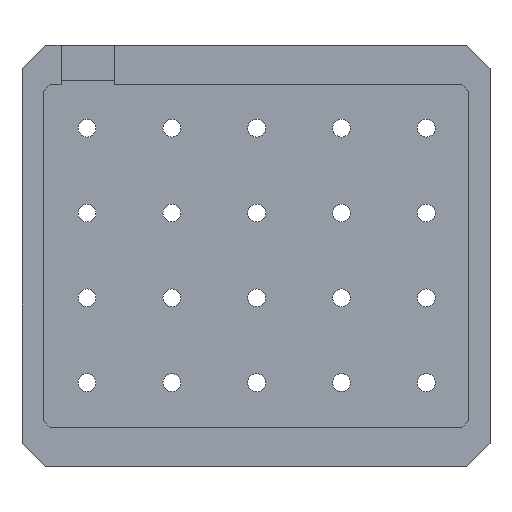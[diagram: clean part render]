
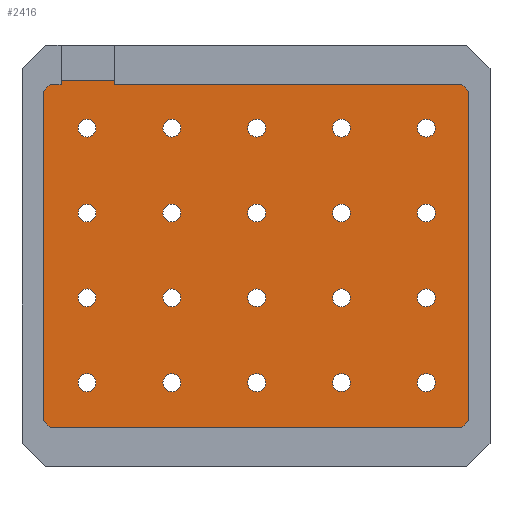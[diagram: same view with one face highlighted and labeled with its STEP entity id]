
A CAD part, top view. The second image highlights one B-rep face of the part: STEP entity #2416.
In plain terms, the highlighted planar face has unit normal (0, 0, 1).
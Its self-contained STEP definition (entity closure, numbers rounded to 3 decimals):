
#45=FACE_BOUND('',#371,.T.);
#46=FACE_BOUND('',#372,.T.);
#47=FACE_BOUND('',#373,.T.);
#48=FACE_BOUND('',#374,.T.);
#49=FACE_BOUND('',#375,.T.);
#50=FACE_BOUND('',#376,.T.);
#51=FACE_BOUND('',#377,.T.);
#52=FACE_BOUND('',#378,.T.);
#53=FACE_BOUND('',#379,.T.);
#54=FACE_BOUND('',#380,.T.);
#55=FACE_BOUND('',#381,.T.);
#56=FACE_BOUND('',#382,.T.);
#57=FACE_BOUND('',#383,.T.);
#58=FACE_BOUND('',#384,.T.);
#59=FACE_BOUND('',#385,.T.);
#60=FACE_BOUND('',#386,.T.);
#61=FACE_BOUND('',#387,.T.);
#62=FACE_BOUND('',#388,.T.);
#63=FACE_BOUND('',#389,.T.);
#64=FACE_BOUND('',#390,.T.);
#92=PLANE('',#2607);
#216=FACE_OUTER_BOUND('',#370,.T.);
#370=EDGE_LOOP('',(#1825,#1826,#1827,#1828,#1829,#1830,#1831,#1832));
#371=EDGE_LOOP('',(#1833));
#372=EDGE_LOOP('',(#1834));
#373=EDGE_LOOP('',(#1835));
#374=EDGE_LOOP('',(#1836));
#375=EDGE_LOOP('',(#1837));
#376=EDGE_LOOP('',(#1838));
#377=EDGE_LOOP('',(#1839));
#378=EDGE_LOOP('',(#1840));
#379=EDGE_LOOP('',(#1841));
#380=EDGE_LOOP('',(#1842));
#381=EDGE_LOOP('',(#1843));
#382=EDGE_LOOP('',(#1844));
#383=EDGE_LOOP('',(#1845));
#384=EDGE_LOOP('',(#1846));
#385=EDGE_LOOP('',(#1847));
#386=EDGE_LOOP('',(#1848));
#387=EDGE_LOOP('',(#1849));
#388=EDGE_LOOP('',(#1850));
#389=EDGE_LOOP('',(#1851));
#390=EDGE_LOOP('',(#1852));
#533=LINE('',#3528,#809);
#539=LINE('',#3539,#815);
#546=LINE('',#3554,#822);
#549=LINE('',#3559,#825);
#550=LINE('',#3563,#826);
#553=LINE('',#3567,#829);
#554=LINE('',#3570,#830);
#556=LINE('',#3573,#832);
#809=VECTOR('',#2879,10.);
#815=VECTOR('',#2887,10.);
#822=VECTOR('',#2898,10.);
#825=VECTOR('',#2903,10.);
#826=VECTOR('',#2906,10.);
#829=VECTOR('',#2911,10.);
#830=VECTOR('',#2914,10.);
#832=VECTOR('',#2918,10.);
#1065=CIRCLE('',#2539,2.);
#1067=CIRCLE('',#2542,2.);
#1069=CIRCLE('',#2545,2.);
#1071=CIRCLE('',#2548,2.);
#1073=CIRCLE('',#2551,2.);
#1075=CIRCLE('',#2554,2.);
#1077=CIRCLE('',#2557,2.);
#1079=CIRCLE('',#2560,2.);
#1081=CIRCLE('',#2563,2.);
#1083=CIRCLE('',#2566,2.);
#1085=CIRCLE('',#2569,2.);
#1087=CIRCLE('',#2572,2.);
#1089=CIRCLE('',#2575,2.);
#1091=CIRCLE('',#2578,2.);
#1093=CIRCLE('',#2581,2.);
#1095=CIRCLE('',#2584,2.);
#1097=CIRCLE('',#2587,2.);
#1099=CIRCLE('',#2590,2.);
#1101=CIRCLE('',#2593,2.);
#1103=CIRCLE('',#2596,2.);
#1125=VERTEX_POINT('',#3406);
#1127=VERTEX_POINT('',#3412);
#1129=VERTEX_POINT('',#3418);
#1131=VERTEX_POINT('',#3424);
#1133=VERTEX_POINT('',#3430);
#1135=VERTEX_POINT('',#3436);
#1137=VERTEX_POINT('',#3442);
#1139=VERTEX_POINT('',#3448);
#1141=VERTEX_POINT('',#3454);
#1143=VERTEX_POINT('',#3460);
#1145=VERTEX_POINT('',#3466);
#1147=VERTEX_POINT('',#3472);
#1149=VERTEX_POINT('',#3478);
#1151=VERTEX_POINT('',#3484);
#1153=VERTEX_POINT('',#3490);
#1155=VERTEX_POINT('',#3496);
#1157=VERTEX_POINT('',#3502);
#1159=VERTEX_POINT('',#3508);
#1161=VERTEX_POINT('',#3514);
#1163=VERTEX_POINT('',#3520);
#1165=VERTEX_POINT('',#3526);
#1166=VERTEX_POINT('',#3527);
#1170=VERTEX_POINT('',#3537);
#1176=VERTEX_POINT('',#3553);
#1177=VERTEX_POINT('',#3557);
#1178=VERTEX_POINT('',#3561);
#1179=VERTEX_POINT('',#3562);
#1180=VERTEX_POINT('',#3569);
#1349=EDGE_CURVE('',#1125,#1125,#1065,.T.);
#1352=EDGE_CURVE('',#1127,#1127,#1067,.T.);
#1355=EDGE_CURVE('',#1129,#1129,#1069,.T.);
#1358=EDGE_CURVE('',#1131,#1131,#1071,.T.);
#1361=EDGE_CURVE('',#1133,#1133,#1073,.T.);
#1364=EDGE_CURVE('',#1135,#1135,#1075,.T.);
#1367=EDGE_CURVE('',#1137,#1137,#1077,.T.);
#1370=EDGE_CURVE('',#1139,#1139,#1079,.T.);
#1373=EDGE_CURVE('',#1141,#1141,#1081,.T.);
#1376=EDGE_CURVE('',#1143,#1143,#1083,.T.);
#1379=EDGE_CURVE('',#1145,#1145,#1085,.T.);
#1382=EDGE_CURVE('',#1147,#1147,#1087,.T.);
#1385=EDGE_CURVE('',#1149,#1149,#1089,.T.);
#1388=EDGE_CURVE('',#1151,#1151,#1091,.T.);
#1391=EDGE_CURVE('',#1153,#1153,#1093,.T.);
#1394=EDGE_CURVE('',#1155,#1155,#1095,.T.);
#1397=EDGE_CURVE('',#1157,#1157,#1097,.T.);
#1400=EDGE_CURVE('',#1159,#1159,#1099,.T.);
#1403=EDGE_CURVE('',#1161,#1161,#1101,.T.);
#1406=EDGE_CURVE('',#1163,#1163,#1103,.T.);
#1409=EDGE_CURVE('',#1165,#1166,#533,.T.);
#1415=EDGE_CURVE('',#1165,#1170,#539,.T.);
#1422=EDGE_CURVE('',#1176,#1170,#546,.T.);
#1425=EDGE_CURVE('',#1176,#1177,#549,.T.);
#1426=EDGE_CURVE('',#1178,#1179,#550,.T.);
#1429=EDGE_CURVE('',#1178,#1166,#553,.T.);
#1430=EDGE_CURVE('',#1180,#1177,#554,.T.);
#1432=EDGE_CURVE('',#1180,#1179,#556,.T.);
#1825=ORIENTED_EDGE('',*,*,#1409,.F.);
#1826=ORIENTED_EDGE('',*,*,#1415,.T.);
#1827=ORIENTED_EDGE('',*,*,#1422,.F.);
#1828=ORIENTED_EDGE('',*,*,#1425,.T.);
#1829=ORIENTED_EDGE('',*,*,#1430,.F.);
#1830=ORIENTED_EDGE('',*,*,#1432,.T.);
#1831=ORIENTED_EDGE('',*,*,#1426,.F.);
#1832=ORIENTED_EDGE('',*,*,#1429,.T.);
#1833=ORIENTED_EDGE('',*,*,#1349,.T.);
#1834=ORIENTED_EDGE('',*,*,#1352,.T.);
#1835=ORIENTED_EDGE('',*,*,#1355,.T.);
#1836=ORIENTED_EDGE('',*,*,#1358,.T.);
#1837=ORIENTED_EDGE('',*,*,#1361,.T.);
#1838=ORIENTED_EDGE('',*,*,#1364,.T.);
#1839=ORIENTED_EDGE('',*,*,#1367,.T.);
#1840=ORIENTED_EDGE('',*,*,#1370,.T.);
#1841=ORIENTED_EDGE('',*,*,#1373,.T.);
#1842=ORIENTED_EDGE('',*,*,#1376,.T.);
#1843=ORIENTED_EDGE('',*,*,#1379,.T.);
#1844=ORIENTED_EDGE('',*,*,#1382,.T.);
#1845=ORIENTED_EDGE('',*,*,#1385,.T.);
#1846=ORIENTED_EDGE('',*,*,#1388,.T.);
#1847=ORIENTED_EDGE('',*,*,#1391,.T.);
#1848=ORIENTED_EDGE('',*,*,#1394,.T.);
#1849=ORIENTED_EDGE('',*,*,#1397,.T.);
#1850=ORIENTED_EDGE('',*,*,#1400,.T.);
#1851=ORIENTED_EDGE('',*,*,#1403,.T.);
#1852=ORIENTED_EDGE('',*,*,#1406,.T.);
#2416=ADVANCED_FACE('',(#216,#45,#46,#47,#48,#49,#50,#51,#52,#53,#54,#55,
#56,#57,#58,#59,#60,#61,#62,#63,#64),#92,.T.);
#2539=AXIS2_PLACEMENT_3D('',#3407,#2739,#2740);
#2542=AXIS2_PLACEMENT_3D('',#3413,#2746,#2747);
#2545=AXIS2_PLACEMENT_3D('',#3419,#2753,#2754);
#2548=AXIS2_PLACEMENT_3D('',#3425,#2760,#2761);
#2551=AXIS2_PLACEMENT_3D('',#3431,#2767,#2768);
#2554=AXIS2_PLACEMENT_3D('',#3437,#2774,#2775);
#2557=AXIS2_PLACEMENT_3D('',#3443,#2781,#2782);
#2560=AXIS2_PLACEMENT_3D('',#3449,#2788,#2789);
#2563=AXIS2_PLACEMENT_3D('',#3455,#2795,#2796);
#2566=AXIS2_PLACEMENT_3D('',#3461,#2802,#2803);
#2569=AXIS2_PLACEMENT_3D('',#3467,#2809,#2810);
#2572=AXIS2_PLACEMENT_3D('',#3473,#2816,#2817);
#2575=AXIS2_PLACEMENT_3D('',#3479,#2823,#2824);
#2578=AXIS2_PLACEMENT_3D('',#3485,#2830,#2831);
#2581=AXIS2_PLACEMENT_3D('',#3491,#2837,#2838);
#2584=AXIS2_PLACEMENT_3D('',#3497,#2844,#2845);
#2587=AXIS2_PLACEMENT_3D('',#3503,#2851,#2852);
#2590=AXIS2_PLACEMENT_3D('',#3509,#2858,#2859);
#2593=AXIS2_PLACEMENT_3D('',#3515,#2865,#2866);
#2596=AXIS2_PLACEMENT_3D('',#3521,#2872,#2873);
#2607=AXIS2_PLACEMENT_3D('',#3574,#2919,#2920);
#2739=DIRECTION('center_axis',(0.,0.,-1.));
#2740=DIRECTION('ref_axis',(-1.,0.,0.));
#2746=DIRECTION('center_axis',(0.,0.,-1.));
#2747=DIRECTION('ref_axis',(-1.,0.,0.));
#2753=DIRECTION('center_axis',(0.,0.,-1.));
#2754=DIRECTION('ref_axis',(-1.,0.,0.));
#2760=DIRECTION('center_axis',(0.,0.,-1.));
#2761=DIRECTION('ref_axis',(-1.,0.,0.));
#2767=DIRECTION('center_axis',(0.,0.,-1.));
#2768=DIRECTION('ref_axis',(-1.,0.,0.));
#2774=DIRECTION('center_axis',(0.,0.,-1.));
#2775=DIRECTION('ref_axis',(-1.,0.,0.));
#2781=DIRECTION('center_axis',(0.,0.,-1.));
#2782=DIRECTION('ref_axis',(-1.,0.,0.));
#2788=DIRECTION('center_axis',(0.,0.,-1.));
#2789=DIRECTION('ref_axis',(-1.,0.,0.));
#2795=DIRECTION('center_axis',(0.,0.,-1.));
#2796=DIRECTION('ref_axis',(-1.,0.,0.));
#2802=DIRECTION('center_axis',(0.,0.,-1.));
#2803=DIRECTION('ref_axis',(-1.,0.,0.));
#2809=DIRECTION('center_axis',(0.,0.,-1.));
#2810=DIRECTION('ref_axis',(-1.,0.,0.));
#2816=DIRECTION('center_axis',(0.,0.,-1.));
#2817=DIRECTION('ref_axis',(-1.,0.,0.));
#2823=DIRECTION('center_axis',(0.,0.,-1.));
#2824=DIRECTION('ref_axis',(-1.,0.,0.));
#2830=DIRECTION('center_axis',(0.,0.,-1.));
#2831=DIRECTION('ref_axis',(-1.,0.,0.));
#2837=DIRECTION('center_axis',(0.,0.,-1.));
#2838=DIRECTION('ref_axis',(-1.,0.,0.));
#2844=DIRECTION('center_axis',(0.,0.,-1.));
#2845=DIRECTION('ref_axis',(-1.,0.,0.));
#2851=DIRECTION('center_axis',(0.,0.,-1.));
#2852=DIRECTION('ref_axis',(-1.,0.,0.));
#2858=DIRECTION('center_axis',(0.,0.,-1.));
#2859=DIRECTION('ref_axis',(-1.,0.,0.));
#2865=DIRECTION('center_axis',(0.,0.,-1.));
#2866=DIRECTION('ref_axis',(-1.,0.,0.));
#2872=DIRECTION('center_axis',(0.,0.,-1.));
#2873=DIRECTION('ref_axis',(-1.,0.,0.));
#2879=DIRECTION('',(0.707,0.707,0.));
#2887=DIRECTION('',(0.,-1.,0.));
#2898=DIRECTION('',(-0.707,0.707,0.));
#2903=DIRECTION('',(1.,0.,0.));
#2906=DIRECTION('',(0.707,-0.707,0.));
#2911=DIRECTION('',(-1.,0.,0.));
#2914=DIRECTION('',(-0.707,-0.707,0.));
#2918=DIRECTION('',(0.,1.,0.));
#2919=DIRECTION('center_axis',(0.,0.,1.));
#2920=DIRECTION('ref_axis',(1.,0.,0.));
#3406=CARTESIAN_POINT('',(69.75,68.,1.6));
#3407=CARTESIAN_POINT('Origin',(67.75,68.,1.6));
#3412=CARTESIAN_POINT('',(12.6,10.85,1.6));
#3413=CARTESIAN_POINT('Origin',(10.6,10.85,1.6));
#3418=CARTESIAN_POINT('',(88.8,29.9,1.6));
#3419=CARTESIAN_POINT('Origin',(86.8,29.9,1.6));
#3424=CARTESIAN_POINT('',(69.75,48.95,1.6));
#3425=CARTESIAN_POINT('Origin',(67.75,48.95,1.6));
#3430=CARTESIAN_POINT('',(69.75,10.85,1.6));
#3431=CARTESIAN_POINT('Origin',(67.75,10.85,1.6));
#3436=CARTESIAN_POINT('',(12.6,48.95,1.6));
#3437=CARTESIAN_POINT('Origin',(10.6,48.95,1.6));
#3442=CARTESIAN_POINT('',(88.8,48.95,1.6));
#3443=CARTESIAN_POINT('Origin',(86.8,48.95,1.6));
#3448=CARTESIAN_POINT('',(50.7,29.9,1.6));
#3449=CARTESIAN_POINT('Origin',(48.7,29.9,1.6));
#3454=CARTESIAN_POINT('',(31.65,10.85,1.6));
#3455=CARTESIAN_POINT('Origin',(29.65,10.85,1.6));
#3460=CARTESIAN_POINT('',(50.7,68.,1.6));
#3461=CARTESIAN_POINT('Origin',(48.7,68.,1.6));
#3466=CARTESIAN_POINT('',(12.6,68.,1.6));
#3467=CARTESIAN_POINT('Origin',(10.6,68.,1.6));
#3472=CARTESIAN_POINT('',(50.7,10.85,1.6));
#3473=CARTESIAN_POINT('Origin',(48.7,10.85,1.6));
#3478=CARTESIAN_POINT('',(31.65,48.95,1.6));
#3479=CARTESIAN_POINT('Origin',(29.65,48.95,1.6));
#3484=CARTESIAN_POINT('',(69.75,29.9,1.6));
#3485=CARTESIAN_POINT('Origin',(67.75,29.9,1.6));
#3490=CARTESIAN_POINT('',(88.8,10.85,1.6));
#3491=CARTESIAN_POINT('Origin',(86.8,10.85,1.6));
#3496=CARTESIAN_POINT('',(12.6,29.9,1.6));
#3497=CARTESIAN_POINT('Origin',(10.6,29.9,1.6));
#3502=CARTESIAN_POINT('',(50.7,48.95,1.6));
#3503=CARTESIAN_POINT('Origin',(48.7,48.95,1.6));
#3508=CARTESIAN_POINT('',(31.65,29.9,1.6));
#3509=CARTESIAN_POINT('Origin',(29.65,29.9,1.6));
#3514=CARTESIAN_POINT('',(31.65,68.,1.6));
#3515=CARTESIAN_POINT('Origin',(29.65,68.,1.6));
#3520=CARTESIAN_POINT('',(88.8,68.,1.6));
#3521=CARTESIAN_POINT('Origin',(86.8,68.,1.6));
#3526=CARTESIAN_POINT('',(0.,76.6,1.6));
#3527=CARTESIAN_POINT('',(2.,78.6,1.6));
#3528=CARTESIAN_POINT('',(3.313,79.913,1.6));
#3537=CARTESIAN_POINT('',(0.,2.,1.6));
#3539=CARTESIAN_POINT('',(0.,78.6,1.6));
#3553=CARTESIAN_POINT('',(2.,0.,1.6));
#3554=CARTESIAN_POINT('',(3.312,-1.313,1.6));
#3557=CARTESIAN_POINT('',(95.1,0.,1.6));
#3559=CARTESIAN_POINT('',(0.,0.,1.6));
#3561=CARTESIAN_POINT('',(95.1,78.6,1.6));
#3562=CARTESIAN_POINT('',(97.1,76.6,1.6));
#3563=CARTESIAN_POINT('',(93.788,79.913,1.6));
#3567=CARTESIAN_POINT('',(97.1,78.6,1.6));
#3569=CARTESIAN_POINT('',(97.1,2.,1.6));
#3570=CARTESIAN_POINT('',(93.788,-1.312,1.6));
#3573=CARTESIAN_POINT('',(97.1,0.,1.6));
#3574=CARTESIAN_POINT('Origin',(48.55,39.3,1.6));
